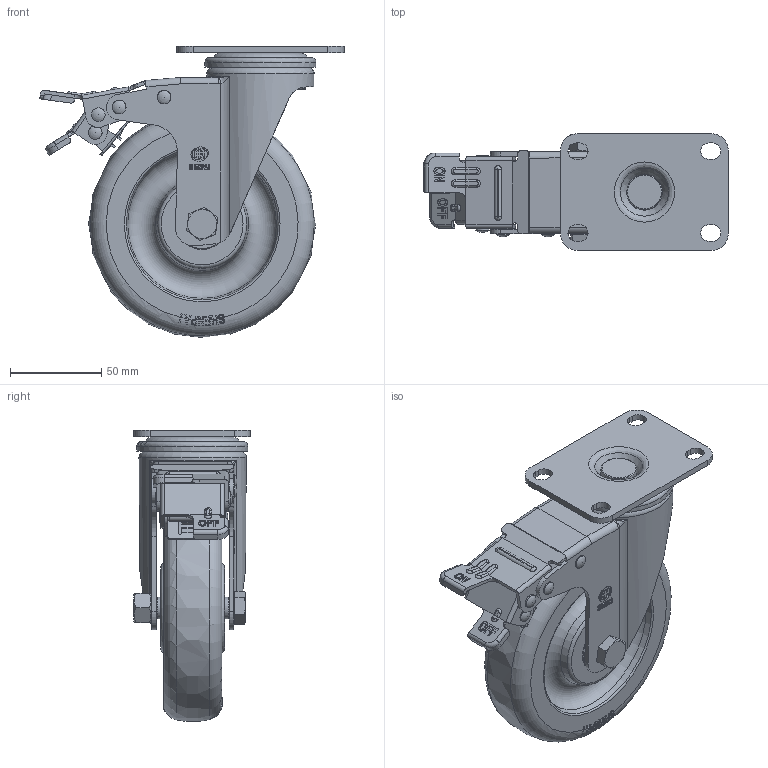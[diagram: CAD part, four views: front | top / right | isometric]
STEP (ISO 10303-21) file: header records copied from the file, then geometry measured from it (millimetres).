
FILE_DESCRIPTION(/* description */ (''),/* implementation_level */ '2;1');
FILE_NAME(/* name */ '20A6B_5_F.stp',/* time_stamp */ '2022-09-03T10:27:21+08:00',/* author */ (''),/* organization */ (''),/* preprocessor_version */ 'ST-DEVELOPER v14',/* originating_system */ 'SIEMENS PLM Software NX 8.0',/* authorisation */ '');
FILE_SCHEMA (('AUTOMOTIVE_DESIGN { 1 0 10303 214 3 1 1 1 }'));
Length unit declared in the file: millimetre
Products named in the file (1): 20A6B_5_F
Bounding box: 167.2 x 64.25 x 159.88 mm (x, y, z)
Volume: 414084 mm3; surface area: 123182.3 mm2
Topology: 1 solids, 2 shells, 1237 faces, 3479 edges, 2294 vertices
Faces by surface type: plane 664, cylinder 320, torus 97, extrusion 46, cone 44, sphere 42, bspline 24
Full cylindrical faces by diameter (mm): 4 x4, 5 x6, 5.2 x16, 7.5 x4, 10 x2, 10.3 x2, 11.8 x3, 12 x2, 12.2 x1, 12.496 x1, 16 x1, 16.8 x1, 24 x1, 28 x2, 30.122 x1, 45.996 x1, 54 x1, 56 x1, 59 x1, 61 x1
Entity records: 45177 total; most frequent: CARTESIAN_POINT 15864, ORIENTED_EDGE 6356, DIRECTION 5460, EDGE_CURVE 3178, VERTEX_POINT 2155, AXIS2_PLACEMENT_3D 1956, VECTOR 1548, LINE 1502
